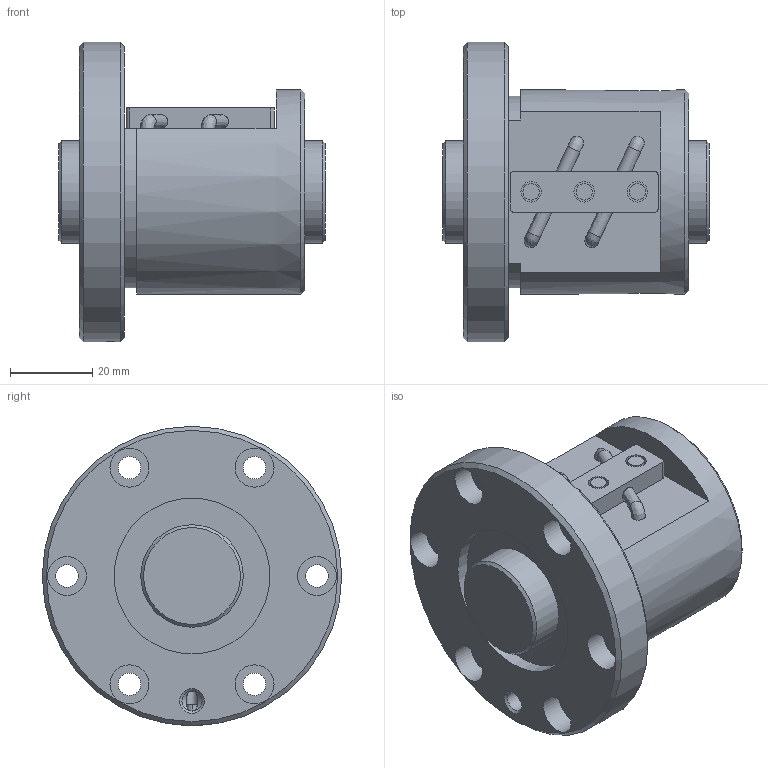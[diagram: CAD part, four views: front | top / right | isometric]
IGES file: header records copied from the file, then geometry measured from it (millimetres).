
Start section: Data from Parasolid IGES Translator 26.0.171, Copyright(c) 2006 Siemens PLM Software. All Rights Reserved.
Global section: file name: BNF2505V-5RRG1+65LC0_000_rev.igs; native system: By Siemens PLM Incorporated; preprocessor: XPlus GENERIC/IGES 26.0.171; author: Noname; organization: Noname; date: 20240806.072912; units: millimetre
Bounding box: 65 x 73 x 73 mm (x, y, z)
Surface area: 30163 mm2 (no closed solid volume)
Topology: 0 solids, 0 shells, 80 faces, 378 edges, 330 vertices
Faces by surface type: revolution 51, extrusion 29
